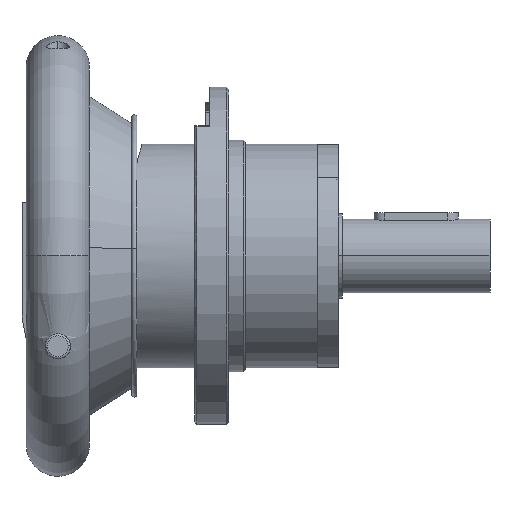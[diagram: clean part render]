
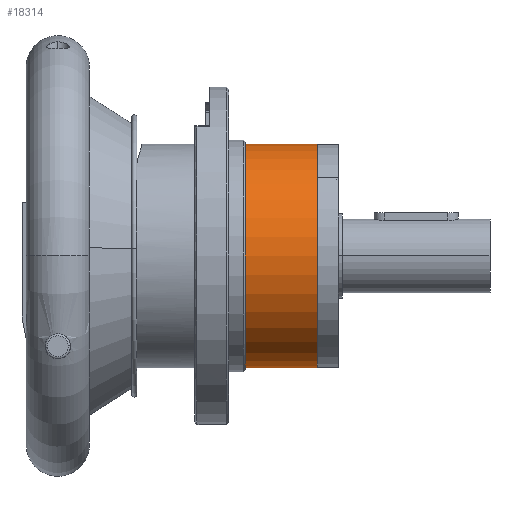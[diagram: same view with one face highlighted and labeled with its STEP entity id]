
A CAD part, top view. The second image highlights one B-rep face of the part: STEP entity #18314.
In plain terms, the highlighted cylindrical face has radius 53 mm (diameter 106 mm), a partial arc.
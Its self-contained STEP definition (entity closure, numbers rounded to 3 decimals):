
#7357 = CARTESIAN_POINT ( 'NONE',  ( -125.056, 0., -53. ) ) ;
#7358 = LINE ( 'NONE', #7357, #7416 ) ;
#7359 = CARTESIAN_POINT ( 'NONE',  ( 0., 0., -53. ) ) ;
#7360 = CARTESIAN_POINT ( 'NONE',  ( 0., 0., 53. ) ) ;
#7361 = DIRECTION ( 'NONE',  ( 0., 0., 1. ) ) ;
#7362 = DIRECTION ( 'NONE',  ( -1., 0., 0. ) ) ;
#7363 = CARTESIAN_POINT ( 'NONE',  ( 0., 0., 0. ) ) ;
#7364 = AXIS2_PLACEMENT_3D ( 'NONE', #7363, #7362, #7361 ) ;
#7365 = DIRECTION ( 'NONE',  ( 0., 0., 1. ) ) ;
#7366 = DIRECTION ( 'NONE',  ( -1., 0., 0. ) ) ;
#7367 = CARTESIAN_POINT ( 'NONE',  ( -125.056, 0., 0. ) ) ;
#7368 = AXIS2_PLACEMENT_3D ( 'NONE', #7367, #7366, #7365 ) ;
#7369 = CYLINDRICAL_SURFACE ( 'NONE', #7368, 53. ) ;
#7370 = CIRCLE ( 'NONE', #7364, 53. ) ;
#7371 = FACE_OUTER_BOUND ( 'NONE', #18315, .T. ) ;
#7409 = DIRECTION ( 'NONE',  ( 0., 0., 1. ) ) ;
#7410 = DIRECTION ( 'NONE',  ( -1., 0., 0. ) ) ;
#7411 = CARTESIAN_POINT ( 'NONE',  ( -34., 0., 0. ) ) ;
#7412 = AXIS2_PLACEMENT_3D ( 'NONE', #7411, #7410, #7409 ) ;
#7413 = CIRCLE ( 'NONE', #7412, 53. ) ;
#7414 = CARTESIAN_POINT ( 'NONE',  ( -34., 0., -53. ) ) ;
#7415 = DIRECTION ( 'NONE',  ( -1., 0., 0. ) ) ;
#7416 = VECTOR ( 'NONE', #7415, 1000. ) ;
#7486 = DIRECTION ( 'NONE',  ( -1., 0., 0. ) ) ;
#7487 = VECTOR ( 'NONE', #7486, 1000. ) ;
#7488 = CARTESIAN_POINT ( 'NONE',  ( -125.056, 0., 53. ) ) ;
#7489 = LINE ( 'NONE', #7488, #7487 ) ;
#7490 = CARTESIAN_POINT ( 'NONE',  ( -34., 0., 53. ) ) ;
#18314 = ADVANCED_FACE ( 'NONE', ( #7371 ), #7369, .T. ) ;
#18315 = EDGE_LOOP ( 'NONE', ( #18316, #18320, #18323, #18381 ) ) ;
#18316 = ORIENTED_EDGE ( 'NONE', *, *, #18317, .T. ) ;
#18317 = EDGE_CURVE ( 'NONE', #18318, #18319, #7370, .T. ) ;
#18318 = VERTEX_POINT ( 'NONE', #7360 ) ;
#18319 = VERTEX_POINT ( 'NONE', #7359 ) ;
#18320 = ORIENTED_EDGE ( 'NONE', *, *, #18321, .T. ) ;
#18321 = EDGE_CURVE ( 'NONE', #18319, #18322, #7358, .T. ) ;
#18322 = VERTEX_POINT ( 'NONE', #7414 ) ;
#18323 = ORIENTED_EDGE ( 'NONE', *, *, #18324, .F. ) ;
#18324 = EDGE_CURVE ( 'NONE', #18380, #18322, #7413, .T. ) ;
#18380 = VERTEX_POINT ( 'NONE', #7490 ) ;
#18381 = ORIENTED_EDGE ( 'NONE', *, *, #18382, .F. ) ;
#18382 = EDGE_CURVE ( 'NONE', #18318, #18380, #7489, .T. ) ;
